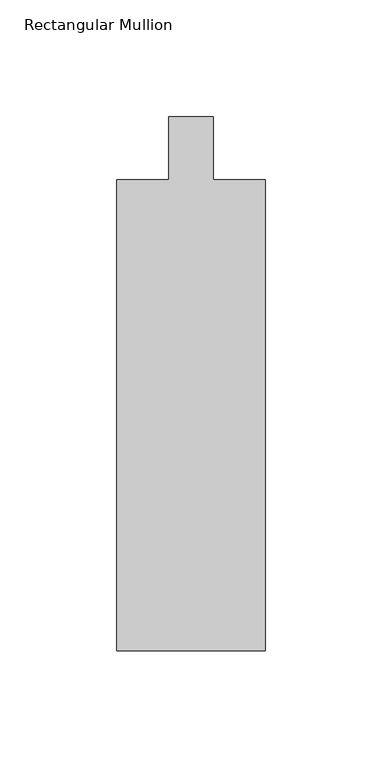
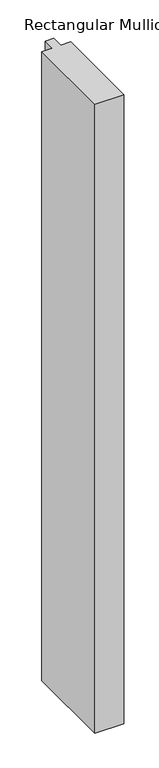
"""IFC4 building model written with IfcOpenShell, lengths in millimetres: member geometry."""

from ifc_helpers import new_model, si_unit, frame, origin, place, context, project, spatial, polyline, outline, extrude, source, transform, mapped, element, save


def rectangular_mullion_471c2e8e(model_context):
    return source(origin(), model_context, "Body", "SweptSolid", [
        extrude(outline(polyline([(0.0, -228.6), (-63.5, -228.6), (-63.5, -26.9875), (-41.275, -26.9875), (-41.275, 0.0), (-22.225, 0.0), (-22.225, -26.9875), (0.0, -26.9875), (0.0, -228.6)])), frame((0.0, 0.0, -1462.6166667), z_axis=(0.0, 0.0, 1.0), x_axis=(1.0, 0.0, 0.0)), (0.0, 0.0, 1.0), 1462.6166667),
    ])


if __name__ == "__main__":
    model = new_model("IFC4")
    model_context = context("Model", 3, world=origin())
    ifc_project = project(units=[si_unit("LENGTHUNIT", "METRE", prefix="MILLI")], contexts=[model_context])
    site = spatial("IfcSite", under=ifc_project)
    building = spatial("IfcBuilding", under=site)
    placement = place(None, origin())
    rectangular_mullion_shape = rectangular_mullion_471c2e8e(model_context)
    element("IfcMember", 1, ObjectType="Rectangular Mullion : 2 1/2\" x 8\" - Capless", at=placement, inside=building, context=model_context, shape_type="MappedRepresentation", body=[
        mapped(rectangular_mullion_shape, transform((0.0, 0.0, 0.0), x_axis=(1.0, 0.0, 0.0), y_axis=(0.0, 1.0, 0.0), z_axis=(0.0, 0.0, 1.0))),
    ])
    save(model, "model.ifc")
